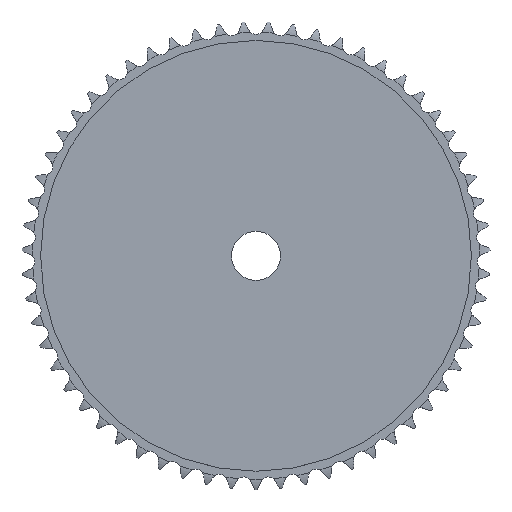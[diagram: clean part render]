
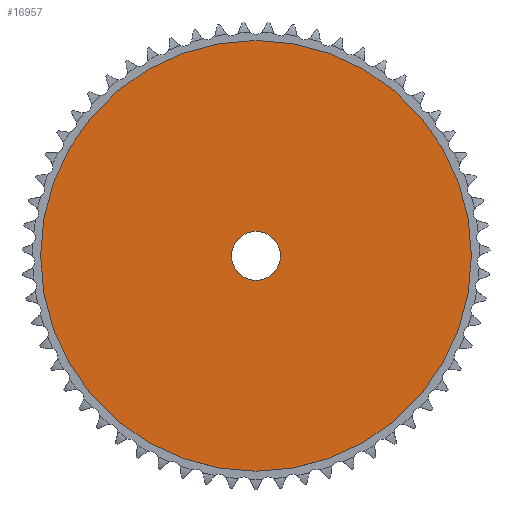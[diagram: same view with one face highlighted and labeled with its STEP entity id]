
A CAD part, top view. The second image highlights one B-rep face of the part: STEP entity #16957.
In plain terms, the highlighted planar face has unit normal (0, 0, 1).
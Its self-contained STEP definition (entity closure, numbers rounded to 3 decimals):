
#9536=CARTESIAN_POINT('',(0.,0.,2.));
#9537=DIRECTION('',(0.,0.,-1.));
#9538=DIRECTION('',(-1.,0.,0.));
#9539=AXIS2_PLACEMENT_3D('',#9536,#9537,#9538);
#9544=CARTESIAN_POINT('',(0.,0.,2.));
#9545=DIRECTION('',(0.,0.,-1.));
#9546=DIRECTION('',(1.,0.,0.));
#9547=AXIS2_PLACEMENT_3D('',#9544,#9545,#9546);
#9552=CARTESIAN_POINT('',(0.,0.,2.));
#9553=DIRECTION('',(0.,0.,1.));
#9554=DIRECTION('',(1.,0.,0.));
#9555=AXIS2_PLACEMENT_3D('',#9552,#9553,#9554);
#9560=CARTESIAN_POINT('',(0.,0.,2.));
#9561=DIRECTION('',(0.,0.,1.));
#9562=DIRECTION('',(-1.,0.,0.));
#9563=AXIS2_PLACEMENT_3D('',#9560,#9561,#9562);
#10572=CARTESIAN_POINT('',(-52.867,0.,2.));
#10573=CARTESIAN_POINT('',(52.867,0.,2.));
#10574=VERTEX_POINT('',#10572);
#10575=VERTEX_POINT('',#10573);
#10592=CARTESIAN_POINT('',(6.,0.,2.));
#10593=VERTEX_POINT('',#10592);
#10594=CARTESIAN_POINT('',(-6.,0.,2.));
#10595=VERTEX_POINT('',#10594);
#16942=CARTESIAN_POINT('',(0.,0.,2.));
#16943=DIRECTION('',(0.,0.,1.));
#16944=DIRECTION('',(1.,0.,0.));
#16945=AXIS2_PLACEMENT_3D('',#16942,#16943,#16944);
#16946=PLANE('',#16945);
#16947=ORIENTED_EDGE('',*,*,#16894,.T.);
#16948=ORIENTED_EDGE('',*,*,#16923,.T.);
#16949=EDGE_LOOP('',(#16947,#16948));
#16950=FACE_OUTER_BOUND('',#16949,.F.);
#16952=ORIENTED_EDGE('',*,*,#16951,.T.);
#16954=ORIENTED_EDGE('',*,*,#16953,.T.);
#16955=EDGE_LOOP('',(#16952,#16954));
#16956=FACE_BOUND('',#16955,.F.);
#16957=ADVANCED_FACE('',(#16950,#16956),#16946,.T.);
#9540=CIRCLE('',#9539,52.867);
#9548=CIRCLE('',#9547,52.867);
#9556=CIRCLE('',#9555,6.);
#9564=CIRCLE('',#9563,6.);
#16894=EDGE_CURVE('',#10574,#10575,#9540,.T.);
#16923=EDGE_CURVE('',#10575,#10574,#9548,.T.);
#16951=EDGE_CURVE('',#10593,#10595,#9556,.T.);
#16953=EDGE_CURVE('',#10595,#10593,#9564,.T.);
